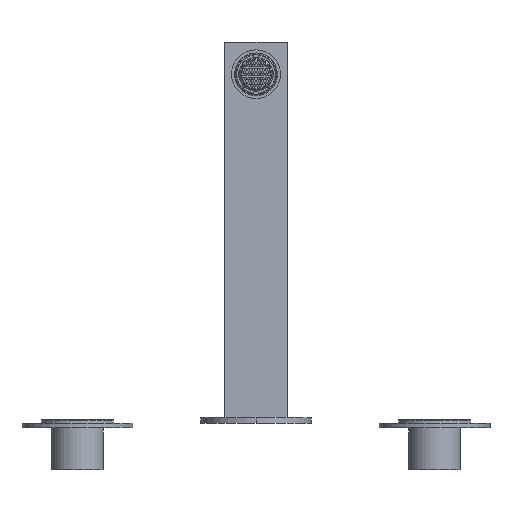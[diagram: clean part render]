
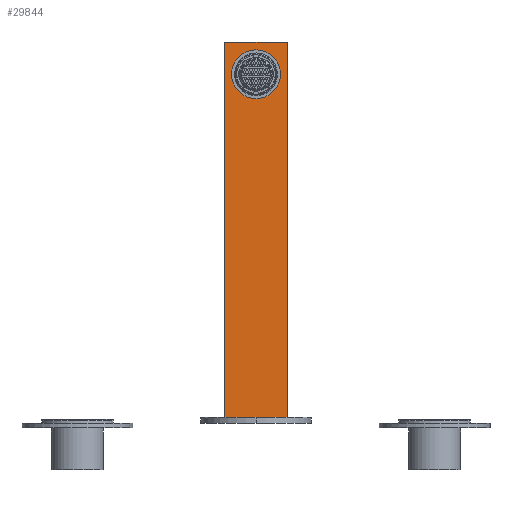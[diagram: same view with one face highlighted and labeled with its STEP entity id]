
A CAD part, front view. The second image highlights one B-rep face of the part: STEP entity #29844.
In plain terms, the highlighted planar face has unit normal (0, -1, 0).
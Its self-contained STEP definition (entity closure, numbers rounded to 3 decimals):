
#12097=DIRECTION('',(0.,0.,-1.));
#12098=VECTOR('',#12097,210.);
#12099=CARTESIAN_POINT('',(-17.5,-5.,250.5));
#12100=LINE('',#12099,#12098);
#12104=DIRECTION('',(-1.,0.,0.));
#12105=VECTOR('',#12104,35.);
#12106=CARTESIAN_POINT('',(17.5,-5.,250.5));
#12107=LINE('',#12106,#12105);
#12111=CARTESIAN_POINT('',(0.,-5.,232.5));
#12112=DIRECTION('',(0.,1.,0.));
#12113=DIRECTION('',(1.,0.,0.));
#12114=AXIS2_PLACEMENT_3D('',#12111,#12112,#12113);
#12119=CARTESIAN_POINT('',(0.,-5.,232.5));
#12120=DIRECTION('',(0.,1.,0.));
#12121=DIRECTION('',(-1.,0.,0.));
#12122=AXIS2_PLACEMENT_3D('',#12119,#12120,#12121);
#12246=DIRECTION('',(1.,0.,0.));
#12247=VECTOR('',#12246,35.);
#12248=CARTESIAN_POINT('',(-17.5,-5.,40.5));
#12249=LINE('',#12248,#12247);
#12336=DIRECTION('',(0.,0.,-1.));
#12337=VECTOR('',#12336,210.);
#12338=CARTESIAN_POINT('',(17.5,-5.,250.5));
#12339=LINE('',#12338,#12337);
#20361=CARTESIAN_POINT('',(17.5,-5.,250.5));
#20362=CARTESIAN_POINT('',(-17.5,-5.,250.5));
#20363=VERTEX_POINT('',#20361);
#20364=VERTEX_POINT('',#20362);
#20369=CARTESIAN_POINT('',(13.65,-5.,232.5));
#20370=CARTESIAN_POINT('',(-13.65,-5.,232.5));
#20371=VERTEX_POINT('',#20369);
#20372=VERTEX_POINT('',#20370);
#20373=CARTESIAN_POINT('',(-17.5,-5.,40.5));
#20374=CARTESIAN_POINT('',(17.5,-5.,40.5));
#20375=VERTEX_POINT('',#20373);
#20376=VERTEX_POINT('',#20374);
#29825=CARTESIAN_POINT('',(-17.5,-5.,40.5));
#29826=DIRECTION('',(0.,-1.,0.));
#29827=DIRECTION('',(1.,0.,0.));
#29828=AXIS2_PLACEMENT_3D('',#29825,#29826,#29827);
#29829=PLANE('',#29828);
#29831=ORIENTED_EDGE('',*,*,#29830,.F.);
#29833=ORIENTED_EDGE('',*,*,#29832,.F.);
#29835=ORIENTED_EDGE('',*,*,#29834,.T.);
#29837=ORIENTED_EDGE('',*,*,#29836,.F.);
#29838=EDGE_LOOP('',(#29831,#29833,#29835,#29837));
#29839=FACE_OUTER_BOUND('',#29838,.F.);
#29840=ORIENTED_EDGE('',*,*,#29805,.F.);
#29841=ORIENTED_EDGE('',*,*,#29819,.F.);
#29842=EDGE_LOOP('',(#29840,#29841));
#29843=FACE_BOUND('',#29842,.F.);
#12115=CIRCLE('',#12114,13.65);
#12123=CIRCLE('',#12122,13.65);
#29805=EDGE_CURVE('',#20371,#20372,#12115,.T.);
#29819=EDGE_CURVE('',#20372,#20371,#12123,.T.);
#29830=EDGE_CURVE('',#20364,#20375,#12100,.T.);
#29832=EDGE_CURVE('',#20363,#20364,#12107,.T.);
#29834=EDGE_CURVE('',#20363,#20376,#12339,.T.);
#29836=EDGE_CURVE('',#20375,#20376,#12249,.T.);
#29844=ADVANCED_FACE('',(#29839,#29843),#29829,.T.);
